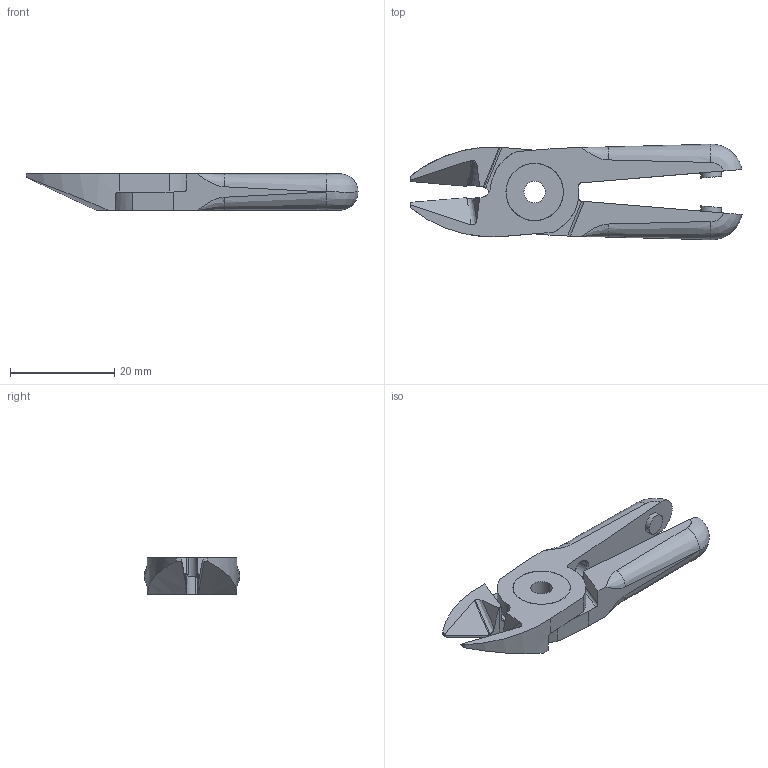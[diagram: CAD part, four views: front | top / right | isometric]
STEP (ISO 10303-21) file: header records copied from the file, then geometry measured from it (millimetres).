
FILE_DESCRIPTION (( 'STEP AP214' ), '1' );
FILE_NAME ('N5HS.STEP', '2019-11-29T01:49:18', ( '微软用户' ), ( '微软中国' ), 'SwSTEP 2.0', 'SolidWorks 2016', '' );
FILE_SCHEMA (( 'AUTOMOTIVE_DESIGN' ));
Length unit declared in the file: millimetre
Products named in the file (4): BR2; BR1; BS; N5HS
Assembly tree (3 placements, depth 2):
  N5HS
    BS
    BR1
    BR2
Bounding box: 63.69 x 18.33 x 7 mm (x, y, z)
Volume: 4531.6 mm3; surface area: 3946.5 mm2
Topology: 3 solids, 3 shells, 103 faces, 272 edges, 171 vertices
Faces by surface type: bspline 46, plane 38, cylinder 15, cone 4
Entity records: 7033 total; most frequent: CARTESIAN_POINT 4775, ORIENTED_EDGE 528, DIRECTION 317, EDGE_CURVE 264, VERTEX_POINT 171, VECTOR 129, LINE 129, EDGE_LOOP 113
